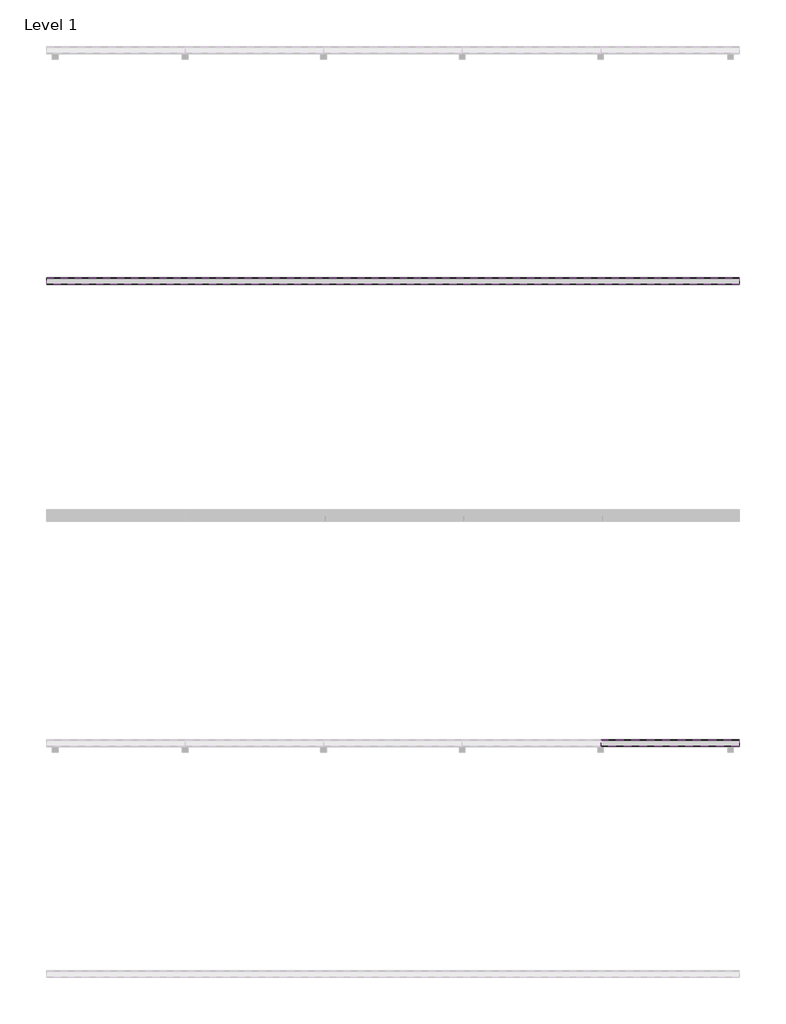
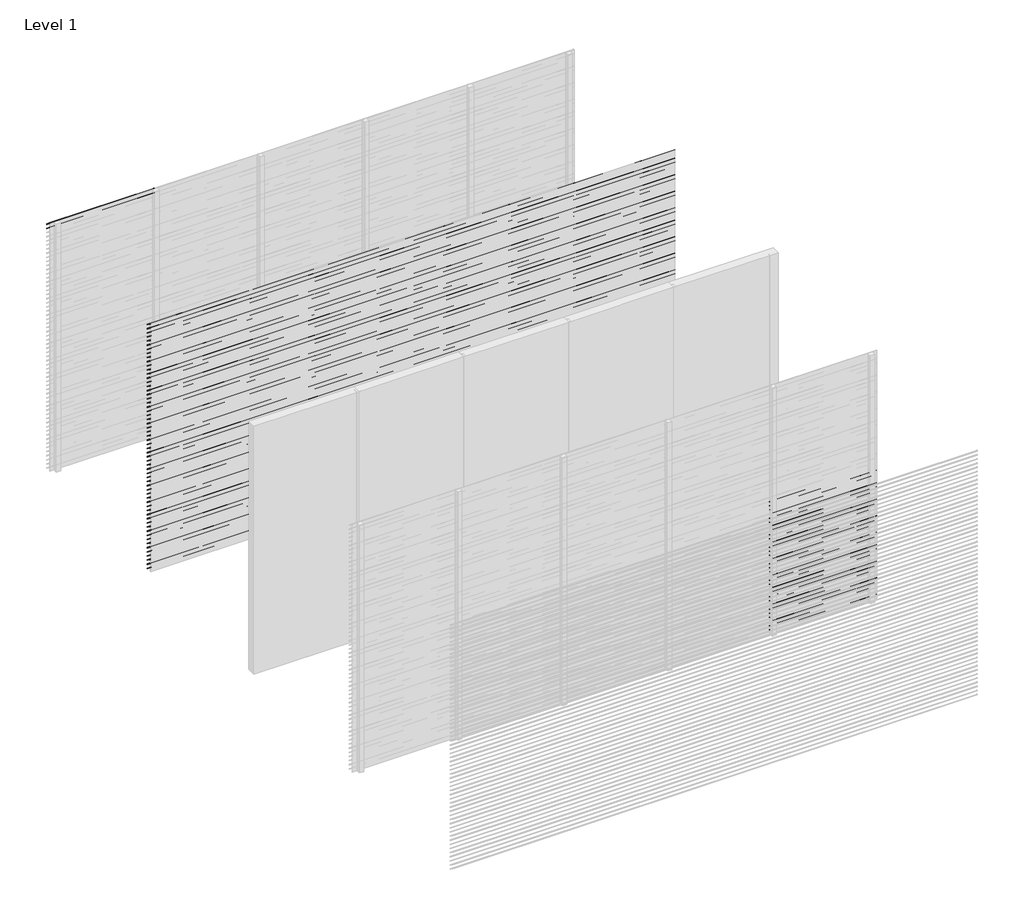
# One storey, part 13 of 16: 94 proxies.
"""IFC4 building model written with IfcOpenShell, lengths in millimetres."""

from ifc_helpers import new_model, si_unit, frame, origin, place, context, project, spatial, polyline, outline, extrude, element, save

model = new_model("IFC4")

# Units and contexts
model_context = context("Model", 3, world=origin())
ifc_project = project(units=[si_unit("LENGTHUNIT", "METRE", prefix="MILLI")], contexts=[model_context])

# Site, building, storey
site = spatial("IfcSite", under=ifc_project)
building = spatial("IfcBuilding", under=site)
storey = spatial("IfcBuildingStorey", under=building, Name="Level 1", Elevation=0.0)

# Proxies
placement = place(None, origin())
element("IfcBuildingElementProxy", 1, Name="Wall Sweeps", at=placement, inside=storey, context=model_context, shape_type="SweptSolid", body=[
    extrude(outline(polyline([(5.0, 3000.0), (5.0, 2998.0), (61.0, 2954.0), (61.0, 2946.0), (3.0, 2991.5714286), (3.0, 3000.0), (5.0, 3000.0)])), frame((0.0, 0.0, 0.0), z_axis=(1.0, 0.0, 0.0), x_axis=(0.0, 1.0, 0.0)), (0.0, 0.0, 1.0), 1200.0),
])
element("IfcBuildingElementProxy", 2, Name="Wall Sweeps", at=placement, inside=storey, context=model_context, shape_type="SweptSolid", body=[
    extrude(outline(polyline([(5.0, 2950.0), (5.0, 2948.0), (61.0, 2904.0), (61.0, 2896.0), (3.0, 2941.5714286), (3.0, 2950.0), (5.0, 2950.0)])), frame((0.0, 0.0, 0.0), z_axis=(1.0, 0.0, 0.0), x_axis=(0.0, 1.0, 0.0)), (0.0, 0.0, 1.0), 1200.0),
])
element("IfcBuildingElementProxy", 3, Name="Wall Sweeps", at=placement, inside=storey, context=model_context, shape_type="SweptSolid", body=[
    extrude(outline(polyline([(-1995.0, 3000.0), (-1995.0, 2998.0), (-1939.0, 2954.0), (-1939.0, 2946.0), (-1997.0, 2991.5714286), (-1997.0, 3000.0), (-1995.0, 3000.0)])), frame((0.0, 0.0, 0.0), z_axis=(1.0, 0.0, 0.0), x_axis=(0.0, 1.0, 0.0)), (0.0, 0.0, 1.0), 6000.0),
])
element("IfcBuildingElementProxy", 4, Name="Wall Sweeps", at=placement, inside=storey, context=model_context, shape_type="SweptSolid", body=[
    extrude(outline(polyline([(-1995.0, 2950.0), (-1995.0, 2948.0), (-1939.0, 2904.0), (-1939.0, 2896.0), (-1997.0, 2941.5714286), (-1997.0, 2950.0), (-1995.0, 2950.0)])), frame((0.0, 0.0, 0.0), z_axis=(1.0, 0.0, 0.0), x_axis=(0.0, 1.0, 0.0)), (0.0, 0.0, 1.0), 6000.0),
])
element("IfcBuildingElementProxy", 5, Name="Wall Sweeps", at=placement, inside=storey, context=model_context, shape_type="SweptSolid", body=[
    extrude(outline(polyline([(-1995.0, 2900.0), (-1995.0, 2898.0), (-1939.0, 2854.0), (-1939.0, 2846.0), (-1997.0, 2891.5714286), (-1997.0, 2900.0), (-1995.0, 2900.0)])), frame((0.0, 0.0, 0.0), z_axis=(1.0, 0.0, 0.0), x_axis=(0.0, 1.0, 0.0)), (0.0, 0.0, 1.0), 6000.0),
])
element("IfcBuildingElementProxy", 6, Name="Wall Sweeps", at=placement, inside=storey, context=model_context, shape_type="SweptSolid", body=[
    extrude(outline(polyline([(-1995.0, 2850.0), (-1995.0, 2848.0), (-1939.0, 2804.0), (-1939.0, 2796.0), (-1997.0, 2841.5714286), (-1997.0, 2850.0), (-1995.0, 2850.0)])), frame((0.0, 0.0, 0.0), z_axis=(1.0, 0.0, 0.0), x_axis=(0.0, 1.0, 0.0)), (0.0, 0.0, 1.0), 6000.0),
])
element("IfcBuildingElementProxy", 7, Name="Wall Sweeps", at=placement, inside=storey, context=model_context, shape_type="SweptSolid", body=[
    extrude(outline(polyline([(-1995.0, 2800.0), (-1995.0, 2798.0), (-1939.0, 2754.0), (-1939.0, 2746.0), (-1997.0, 2791.5714286), (-1997.0, 2800.0), (-1995.0, 2800.0)])), frame((0.0, 0.0, 0.0), z_axis=(1.0, 0.0, 0.0), x_axis=(0.0, 1.0, 0.0)), (0.0, 0.0, 1.0), 6000.0),
])
element("IfcBuildingElementProxy", 8, Name="Wall Sweeps", at=placement, inside=storey, context=model_context, shape_type="SweptSolid", body=[
    extrude(outline(polyline([(-1995.0, 2750.0), (-1995.0, 2748.0), (-1939.0, 2704.0), (-1939.0, 2696.0), (-1997.0, 2741.5714286), (-1997.0, 2750.0), (-1995.0, 2750.0)])), frame((0.0, 0.0, 0.0), z_axis=(1.0, 0.0, 0.0), x_axis=(0.0, 1.0, 0.0)), (0.0, 0.0, 1.0), 6000.0),
])
element("IfcBuildingElementProxy", 9, Name="Wall Sweeps", at=placement, inside=storey, context=model_context, shape_type="SweptSolid", body=[
    extrude(outline(polyline([(-1995.0, 2700.0), (-1995.0, 2698.0), (-1939.0, 2654.0), (-1939.0, 2646.0), (-1997.0, 2691.5714286), (-1997.0, 2700.0), (-1995.0, 2700.0)])), frame((0.0, 0.0, 0.0), z_axis=(1.0, 0.0, 0.0), x_axis=(0.0, 1.0, 0.0)), (0.0, 0.0, 1.0), 6000.0),
])
element("IfcBuildingElementProxy", 10, Name="Wall Sweeps", at=placement, inside=storey, context=model_context, shape_type="SweptSolid", body=[
    extrude(outline(polyline([(-1995.0, 2650.0), (-1995.0, 2648.0), (-1939.0, 2604.0), (-1939.0, 2596.0), (-1997.0, 2641.5714286), (-1997.0, 2650.0), (-1995.0, 2650.0)])), frame((0.0, 0.0, 0.0), z_axis=(1.0, 0.0, 0.0), x_axis=(0.0, 1.0, 0.0)), (0.0, 0.0, 1.0), 6000.0),
])
element("IfcBuildingElementProxy", 11, Name="Wall Sweeps", at=placement, inside=storey, context=model_context, shape_type="SweptSolid", body=[
    extrude(outline(polyline([(-1995.0, 2600.0), (-1995.0, 2598.0), (-1939.0, 2554.0), (-1939.0, 2546.0), (-1997.0, 2591.5714286), (-1997.0, 2600.0), (-1995.0, 2600.0)])), frame((0.0, 0.0, 0.0), z_axis=(1.0, 0.0, 0.0), x_axis=(0.0, 1.0, 0.0)), (0.0, 0.0, 1.0), 6000.0),
])
element("IfcBuildingElementProxy", 12, Name="Wall Sweeps", at=placement, inside=storey, context=model_context, shape_type="SweptSolid", body=[
    extrude(outline(polyline([(-1995.0, 2550.0), (-1995.0, 2548.0), (-1939.0, 2504.0), (-1939.0, 2496.0), (-1997.0, 2541.5714286), (-1997.0, 2550.0), (-1995.0, 2550.0)])), frame((0.0, 0.0, 0.0), z_axis=(1.0, 0.0, 0.0), x_axis=(0.0, 1.0, 0.0)), (0.0, 0.0, 1.0), 6000.0),
])
element("IfcBuildingElementProxy", 13, Name="Wall Sweeps", at=placement, inside=storey, context=model_context, shape_type="SweptSolid", body=[
    extrude(outline(polyline([(-1995.0, 2500.0), (-1995.0, 2498.0), (-1939.0, 2454.0), (-1939.0, 2446.0), (-1997.0, 2491.5714286), (-1997.0, 2500.0), (-1995.0, 2500.0)])), frame((0.0, 0.0, 0.0), z_axis=(1.0, 0.0, 0.0), x_axis=(0.0, 1.0, 0.0)), (0.0, 0.0, 1.0), 6000.0),
])
element("IfcBuildingElementProxy", 14, Name="Wall Sweeps", at=placement, inside=storey, context=model_context, shape_type="SweptSolid", body=[
    extrude(outline(polyline([(-1995.0, 2450.0), (-1995.0, 2448.0), (-1939.0, 2404.0), (-1939.0, 2396.0), (-1997.0, 2441.5714286), (-1997.0, 2450.0), (-1995.0, 2450.0)])), frame((0.0, 0.0, 0.0), z_axis=(1.0, 0.0, 0.0), x_axis=(0.0, 1.0, 0.0)), (0.0, 0.0, 1.0), 6000.0),
])
element("IfcBuildingElementProxy", 15, Name="Wall Sweeps", at=placement, inside=storey, context=model_context, shape_type="SweptSolid", body=[
    extrude(outline(polyline([(-1995.0, 2400.0), (-1995.0, 2398.0), (-1939.0, 2354.0), (-1939.0, 2346.0), (-1997.0, 2391.5714286), (-1997.0, 2400.0), (-1995.0, 2400.0)])), frame((0.0, 0.0, 0.0), z_axis=(1.0, 0.0, 0.0), x_axis=(0.0, 1.0, 0.0)), (0.0, 0.0, 1.0), 6000.0),
])
element("IfcBuildingElementProxy", 16, Name="Wall Sweeps", at=placement, inside=storey, context=model_context, shape_type="SweptSolid", body=[
    extrude(outline(polyline([(-1995.0, 2350.0), (-1995.0, 2348.0), (-1939.0, 2304.0), (-1939.0, 2296.0), (-1997.0, 2341.5714286), (-1997.0, 2350.0), (-1995.0, 2350.0)])), frame((0.0, 0.0, 0.0), z_axis=(1.0, 0.0, 0.0), x_axis=(0.0, 1.0, 0.0)), (0.0, 0.0, 1.0), 6000.0),
])
element("IfcBuildingElementProxy", 17, Name="Wall Sweeps", at=placement, inside=storey, context=model_context, shape_type="SweptSolid", body=[
    extrude(outline(polyline([(-1995.0, 2300.0), (-1995.0, 2298.0), (-1939.0, 2254.0), (-1939.0, 2246.0), (-1997.0, 2291.5714286), (-1997.0, 2300.0), (-1995.0, 2300.0)])), frame((0.0, 0.0, 0.0), z_axis=(1.0, 0.0, 0.0), x_axis=(0.0, 1.0, 0.0)), (0.0, 0.0, 1.0), 6000.0),
])
element("IfcBuildingElementProxy", 18, Name="Wall Sweeps", at=placement, inside=storey, context=model_context, shape_type="SweptSolid", body=[
    extrude(outline(polyline([(-1995.0, 2250.0), (-1995.0, 2248.0), (-1939.0, 2204.0), (-1939.0, 2196.0), (-1997.0, 2241.5714286), (-1997.0, 2250.0), (-1995.0, 2250.0)])), frame((0.0, 0.0, 0.0), z_axis=(1.0, 0.0, 0.0), x_axis=(0.0, 1.0, 0.0)), (0.0, 0.0, 1.0), 6000.0),
])
element("IfcBuildingElementProxy", 19, Name="Wall Sweeps", at=placement, inside=storey, context=model_context, shape_type="SweptSolid", body=[
    extrude(outline(polyline([(-1995.0, 2200.0), (-1995.0, 2198.0), (-1939.0, 2154.0), (-1939.0, 2146.0), (-1997.0, 2191.5714286), (-1997.0, 2200.0), (-1995.0, 2200.0)])), frame((0.0, 0.0, 0.0), z_axis=(1.0, 0.0, 0.0), x_axis=(0.0, 1.0, 0.0)), (0.0, 0.0, 1.0), 6000.0),
])
element("IfcBuildingElementProxy", 20, Name="Wall Sweeps", at=placement, inside=storey, context=model_context, shape_type="SweptSolid", body=[
    extrude(outline(polyline([(-1995.0, 2150.0), (-1995.0, 2148.0), (-1939.0, 2104.0), (-1939.0, 2096.0), (-1997.0, 2141.5714286), (-1997.0, 2150.0), (-1995.0, 2150.0)])), frame((0.0, 0.0, 0.0), z_axis=(1.0, 0.0, 0.0), x_axis=(0.0, 1.0, 0.0)), (0.0, 0.0, 1.0), 6000.0),
])
element("IfcBuildingElementProxy", 21, Name="Wall Sweeps", at=placement, inside=storey, context=model_context, shape_type="SweptSolid", body=[
    extrude(outline(polyline([(-1995.0, 2100.0), (-1995.0, 2098.0), (-1939.0, 2054.0), (-1939.0, 2046.0), (-1997.0, 2091.5714286), (-1997.0, 2100.0), (-1995.0, 2100.0)])), frame((0.0, 0.0, 0.0), z_axis=(1.0, 0.0, 0.0), x_axis=(0.0, 1.0, 0.0)), (0.0, 0.0, 1.0), 6000.0),
])
element("IfcBuildingElementProxy", 22, Name="Wall Sweeps", at=placement, inside=storey, context=model_context, shape_type="SweptSolid", body=[
    extrude(outline(polyline([(-1995.0, 2050.0), (-1995.0, 2048.0), (-1939.0, 2004.0), (-1939.0, 1996.0), (-1997.0, 2041.5714286), (-1997.0, 2050.0), (-1995.0, 2050.0)])), frame((0.0, 0.0, 0.0), z_axis=(1.0, 0.0, 0.0), x_axis=(0.0, 1.0, 0.0)), (0.0, 0.0, 1.0), 6000.0),
])
element("IfcBuildingElementProxy", 23, Name="Wall Sweeps", at=placement, inside=storey, context=model_context, shape_type="SweptSolid", body=[
    extrude(outline(polyline([(-1995.0, 2000.0), (-1995.0, 1998.0), (-1939.0, 1954.0), (-1939.0, 1946.0), (-1997.0, 1991.5714286), (-1997.0, 2000.0), (-1995.0, 2000.0)])), frame((0.0, 0.0, 0.0), z_axis=(1.0, 0.0, 0.0), x_axis=(0.0, 1.0, 0.0)), (0.0, 0.0, 1.0), 6000.0),
])
element("IfcBuildingElementProxy", 24, Name="Wall Sweeps", at=placement, inside=storey, context=model_context, shape_type="SweptSolid", body=[
    extrude(outline(polyline([(-1995.0, 1950.0), (-1995.0, 1948.0), (-1939.0, 1904.0), (-1939.0, 1896.0), (-1997.0, 1941.5714286), (-1997.0, 1950.0), (-1995.0, 1950.0)])), frame((0.0, 0.0, 0.0), z_axis=(1.0, 0.0, 0.0), x_axis=(0.0, 1.0, 0.0)), (0.0, 0.0, 1.0), 6000.0),
])
element("IfcBuildingElementProxy", 25, Name="Wall Sweeps", at=placement, inside=storey, context=model_context, shape_type="SweptSolid", body=[
    extrude(outline(polyline([(-1995.0, 1900.0), (-1995.0, 1898.0), (-1939.0, 1854.0), (-1939.0, 1846.0), (-1997.0, 1891.5714286), (-1997.0, 1900.0), (-1995.0, 1900.0)])), frame((0.0, 0.0, 0.0), z_axis=(1.0, 0.0, 0.0), x_axis=(0.0, 1.0, 0.0)), (0.0, 0.0, 1.0), 6000.0),
])
element("IfcBuildingElementProxy", 26, Name="Wall Sweeps", at=placement, inside=storey, context=model_context, shape_type="SweptSolid", body=[
    extrude(outline(polyline([(-1995.0, 1850.0), (-1995.0, 1848.0), (-1939.0, 1804.0), (-1939.0, 1796.0), (-1997.0, 1841.5714286), (-1997.0, 1850.0), (-1995.0, 1850.0)])), frame((0.0, 0.0, 0.0), z_axis=(1.0, 0.0, 0.0), x_axis=(0.0, 1.0, 0.0)), (0.0, 0.0, 1.0), 6000.0),
])
element("IfcBuildingElementProxy", 27, Name="Wall Sweeps", at=placement, inside=storey, context=model_context, shape_type="SweptSolid", body=[
    extrude(outline(polyline([(-1995.0, 1800.0), (-1995.0, 1798.0), (-1939.0, 1754.0), (-1939.0, 1746.0), (-1997.0, 1791.5714286), (-1997.0, 1800.0), (-1995.0, 1800.0)])), frame((0.0, 0.0, 0.0), z_axis=(1.0, 0.0, 0.0), x_axis=(0.0, 1.0, 0.0)), (0.0, 0.0, 1.0), 6000.0),
])
element("IfcBuildingElementProxy", 28, Name="Wall Sweeps", at=placement, inside=storey, context=model_context, shape_type="SweptSolid", body=[
    extrude(outline(polyline([(-1995.0, 1750.0), (-1995.0, 1748.0), (-1939.0, 1704.0), (-1939.0, 1696.0), (-1997.0, 1741.5714286), (-1997.0, 1750.0), (-1995.0, 1750.0)])), frame((0.0, 0.0, 0.0), z_axis=(1.0, 0.0, 0.0), x_axis=(0.0, 1.0, 0.0)), (0.0, 0.0, 1.0), 6000.0),
])
element("IfcBuildingElementProxy", 29, Name="Wall Sweeps", at=placement, inside=storey, context=model_context, shape_type="SweptSolid", body=[
    extrude(outline(polyline([(-1995.0, 1700.0), (-1995.0, 1698.0), (-1939.0, 1654.0), (-1939.0, 1646.0), (-1997.0, 1691.5714286), (-1997.0, 1700.0), (-1995.0, 1700.0)])), frame((0.0, 0.0, 0.0), z_axis=(1.0, 0.0, 0.0), x_axis=(0.0, 1.0, 0.0)), (0.0, 0.0, 1.0), 6000.0),
])
element("IfcBuildingElementProxy", 30, Name="Wall Sweeps", at=placement, inside=storey, context=model_context, shape_type="SweptSolid", body=[
    extrude(outline(polyline([(-1995.0, 1650.0), (-1995.0, 1648.0), (-1939.0, 1604.0), (-1939.0, 1596.0), (-1997.0, 1641.5714286), (-1997.0, 1650.0), (-1995.0, 1650.0)])), frame((0.0, 0.0, 0.0), z_axis=(1.0, 0.0, 0.0), x_axis=(0.0, 1.0, 0.0)), (0.0, 0.0, 1.0), 6000.0),
])
element("IfcBuildingElementProxy", 31, Name="Wall Sweeps", at=placement, inside=storey, context=model_context, shape_type="SweptSolid", body=[
    extrude(outline(polyline([(-1995.0, 1600.0), (-1995.0, 1598.0), (-1939.0, 1554.0), (-1939.0, 1546.0), (-1997.0, 1591.5714286), (-1997.0, 1600.0), (-1995.0, 1600.0)])), frame((0.0, 0.0, 0.0), z_axis=(1.0, 0.0, 0.0), x_axis=(0.0, 1.0, 0.0)), (0.0, 0.0, 1.0), 6000.0),
])
element("IfcBuildingElementProxy", 32, Name="Wall Sweeps", at=placement, inside=storey, context=model_context, shape_type="SweptSolid", body=[
    extrude(outline(polyline([(-1995.0, 1550.0), (-1995.0, 1548.0), (-1939.0, 1504.0), (-1939.0, 1496.0), (-1997.0, 1541.5714286), (-1997.0, 1550.0), (-1995.0, 1550.0)])), frame((0.0, 0.0, 0.0), z_axis=(1.0, 0.0, 0.0), x_axis=(0.0, 1.0, 0.0)), (0.0, 0.0, 1.0), 6000.0),
])
element("IfcBuildingElementProxy", 33, Name="Wall Sweeps", at=placement, inside=storey, context=model_context, shape_type="SweptSolid", body=[
    extrude(outline(polyline([(-1995.0, 1500.0), (-1995.0, 1498.0), (-1939.0, 1454.0), (-1939.0, 1446.0), (-1997.0, 1491.5714286), (-1997.0, 1500.0), (-1995.0, 1500.0)])), frame((0.0, 0.0, 0.0), z_axis=(1.0, 0.0, 0.0), x_axis=(0.0, 1.0, 0.0)), (0.0, 0.0, 1.0), 6000.0),
])
element("IfcBuildingElementProxy", 34, Name="Wall Sweeps", at=placement, inside=storey, context=model_context, shape_type="SweptSolid", body=[
    extrude(outline(polyline([(-1995.0, 1450.0), (-1995.0, 1448.0), (-1939.0, 1404.0), (-1939.0, 1396.0), (-1997.0, 1441.5714286), (-1997.0, 1450.0), (-1995.0, 1450.0)])), frame((0.0, 0.0, 0.0), z_axis=(1.0, 0.0, 0.0), x_axis=(0.0, 1.0, 0.0)), (0.0, 0.0, 1.0), 6000.0),
])
element("IfcBuildingElementProxy", 35, Name="Wall Sweeps", at=placement, inside=storey, context=model_context, shape_type="SweptSolid", body=[
    extrude(outline(polyline([(-1995.0, 1400.0), (-1995.0, 1398.0), (-1939.0, 1354.0), (-1939.0, 1346.0), (-1997.0, 1391.5714286), (-1997.0, 1400.0), (-1995.0, 1400.0)])), frame((0.0, 0.0, 0.0), z_axis=(1.0, 0.0, 0.0), x_axis=(0.0, 1.0, 0.0)), (0.0, 0.0, 1.0), 6000.0),
])
element("IfcBuildingElementProxy", 36, Name="Wall Sweeps", at=placement, inside=storey, context=model_context, shape_type="SweptSolid", body=[
    extrude(outline(polyline([(-1995.0, 1350.0), (-1995.0, 1348.0), (-1939.0, 1304.0), (-1939.0, 1296.0), (-1997.0, 1341.5714286), (-1997.0, 1350.0), (-1995.0, 1350.0)])), frame((0.0, 0.0, 0.0), z_axis=(1.0, 0.0, 0.0), x_axis=(0.0, 1.0, 0.0)), (0.0, 0.0, 1.0), 6000.0),
])
element("IfcBuildingElementProxy", 37, Name="Wall Sweeps", at=placement, inside=storey, context=model_context, shape_type="SweptSolid", body=[
    extrude(outline(polyline([(-1995.0, 1300.0), (-1995.0, 1298.0), (-1939.0, 1254.0), (-1939.0, 1246.0), (-1997.0, 1291.5714286), (-1997.0, 1300.0), (-1995.0, 1300.0)])), frame((0.0, 0.0, 0.0), z_axis=(1.0, 0.0, 0.0), x_axis=(0.0, 1.0, 0.0)), (0.0, 0.0, 1.0), 6000.0),
])
element("IfcBuildingElementProxy", 38, Name="Wall Sweeps", at=placement, inside=storey, context=model_context, shape_type="SweptSolid", body=[
    extrude(outline(polyline([(-1995.0, 1250.0), (-1995.0, 1248.0), (-1939.0, 1204.0), (-1939.0, 1196.0), (-1997.0, 1241.5714286), (-1997.0, 1250.0), (-1995.0, 1250.0)])), frame((0.0, 0.0, 0.0), z_axis=(1.0, 0.0, 0.0), x_axis=(0.0, 1.0, 0.0)), (0.0, 0.0, 1.0), 6000.0),
])
element("IfcBuildingElementProxy", 39, Name="Wall Sweeps", at=placement, inside=storey, context=model_context, shape_type="SweptSolid", body=[
    extrude(outline(polyline([(-1995.0, 1200.0), (-1995.0, 1198.0), (-1939.0, 1154.0), (-1939.0, 1146.0), (-1997.0, 1191.5714286), (-1997.0, 1200.0), (-1995.0, 1200.0)])), frame((0.0, 0.0, 0.0), z_axis=(1.0, 0.0, 0.0), x_axis=(0.0, 1.0, 0.0)), (0.0, 0.0, 1.0), 6000.0),
])
element("IfcBuildingElementProxy", 40, Name="Wall Sweeps", at=placement, inside=storey, context=model_context, shape_type="SweptSolid", body=[
    extrude(outline(polyline([(-1995.0, 1150.0), (-1995.0, 1148.0), (-1939.0, 1104.0), (-1939.0, 1096.0), (-1997.0, 1141.5714286), (-1997.0, 1150.0), (-1995.0, 1150.0)])), frame((0.0, 0.0, 0.0), z_axis=(1.0, 0.0, 0.0), x_axis=(0.0, 1.0, 0.0)), (0.0, 0.0, 1.0), 6000.0),
])
element("IfcBuildingElementProxy", 41, Name="Wall Sweeps", at=placement, inside=storey, context=model_context, shape_type="SweptSolid", body=[
    extrude(outline(polyline([(-1995.0, 1100.0), (-1995.0, 1098.0), (-1939.0, 1054.0), (-1939.0, 1046.0), (-1997.0, 1091.5714286), (-1997.0, 1100.0), (-1995.0, 1100.0)])), frame((0.0, 0.0, 0.0), z_axis=(1.0, 0.0, 0.0), x_axis=(0.0, 1.0, 0.0)), (0.0, 0.0, 1.0), 6000.0),
])
element("IfcBuildingElementProxy", 42, Name="Wall Sweeps", at=placement, inside=storey, context=model_context, shape_type="SweptSolid", body=[
    extrude(outline(polyline([(-1995.0, 1050.0), (-1995.0, 1048.0), (-1939.0, 1004.0), (-1939.0, 996.0), (-1997.0, 1041.5714286), (-1997.0, 1050.0), (-1995.0, 1050.0)])), frame((0.0, 0.0, 0.0), z_axis=(1.0, 0.0, 0.0), x_axis=(0.0, 1.0, 0.0)), (0.0, 0.0, 1.0), 6000.0),
])
element("IfcBuildingElementProxy", 43, Name="Wall Sweeps", at=placement, inside=storey, context=model_context, shape_type="SweptSolid", body=[
    extrude(outline(polyline([(-1995.0, 1000.0), (-1995.0, 998.0), (-1939.0, 954.0), (-1939.0, 946.0), (-1997.0, 991.5714286), (-1997.0, 1000.0), (-1995.0, 1000.0)])), frame((0.0, 0.0, 0.0), z_axis=(1.0, 0.0, 0.0), x_axis=(0.0, 1.0, 0.0)), (0.0, 0.0, 1.0), 6000.0),
])
element("IfcBuildingElementProxy", 44, Name="Wall Sweeps", at=placement, inside=storey, context=model_context, shape_type="SweptSolid", body=[
    extrude(outline(polyline([(-1995.0, 950.0), (-1995.0, 948.0), (-1939.0, 904.0), (-1939.0, 896.0), (-1997.0, 941.5714286), (-1997.0, 950.0), (-1995.0, 950.0)])), frame((0.0, 0.0, 0.0), z_axis=(1.0, 0.0, 0.0), x_axis=(0.0, 1.0, 0.0)), (0.0, 0.0, 1.0), 6000.0),
])
element("IfcBuildingElementProxy", 45, Name="Wall Sweeps", at=placement, inside=storey, context=model_context, shape_type="SweptSolid", body=[
    extrude(outline(polyline([(-1995.0, 900.0), (-1995.0, 898.0), (-1939.0, 854.0), (-1939.0, 846.0), (-1997.0, 891.5714286), (-1997.0, 900.0), (-1995.0, 900.0)])), frame((0.0, 0.0, 0.0), z_axis=(1.0, 0.0, 0.0), x_axis=(0.0, 1.0, 0.0)), (0.0, 0.0, 1.0), 6000.0),
])
element("IfcBuildingElementProxy", 46, Name="Wall Sweeps", at=placement, inside=storey, context=model_context, shape_type="SweptSolid", body=[
    extrude(outline(polyline([(-1995.0, 850.0), (-1995.0, 848.0), (-1939.0, 804.0), (-1939.0, 796.0), (-1997.0, 841.5714286), (-1997.0, 850.0), (-1995.0, 850.0)])), frame((0.0, 0.0, 0.0), z_axis=(1.0, 0.0, 0.0), x_axis=(0.0, 1.0, 0.0)), (0.0, 0.0, 1.0), 6000.0),
])
element("IfcBuildingElementProxy", 47, Name="Wall Sweeps", at=placement, inside=storey, context=model_context, shape_type="SweptSolid", body=[
    extrude(outline(polyline([(-1995.0, 800.0), (-1995.0, 798.0), (-1939.0, 754.0), (-1939.0, 746.0), (-1997.0, 791.5714286), (-1997.0, 800.0), (-1995.0, 800.0)])), frame((0.0, 0.0, 0.0), z_axis=(1.0, 0.0, 0.0), x_axis=(0.0, 1.0, 0.0)), (0.0, 0.0, 1.0), 6000.0),
])
element("IfcBuildingElementProxy", 48, Name="Wall Sweeps", at=placement, inside=storey, context=model_context, shape_type="SweptSolid", body=[
    extrude(outline(polyline([(-1995.0, 750.0), (-1995.0, 748.0), (-1939.0, 704.0), (-1939.0, 696.0), (-1997.0, 741.5714286), (-1997.0, 750.0), (-1995.0, 750.0)])), frame((0.0, 0.0, 0.0), z_axis=(1.0, 0.0, 0.0), x_axis=(0.0, 1.0, 0.0)), (0.0, 0.0, 1.0), 6000.0),
])
element("IfcBuildingElementProxy", 49, Name="Wall Sweeps", at=placement, inside=storey, context=model_context, shape_type="SweptSolid", body=[
    extrude(outline(polyline([(-1995.0, 700.0), (-1995.0, 698.0), (-1939.0, 654.0), (-1939.0, 646.0), (-1997.0, 691.5714286), (-1997.0, 700.0), (-1995.0, 700.0)])), frame((0.0, 0.0, 0.0), z_axis=(1.0, 0.0, 0.0), x_axis=(0.0, 1.0, 0.0)), (0.0, 0.0, 1.0), 6000.0),
])
element("IfcBuildingElementProxy", 50, Name="Wall Sweeps", at=placement, inside=storey, context=model_context, shape_type="SweptSolid", body=[
    extrude(outline(polyline([(-1995.0, 650.0), (-1995.0, 648.0), (-1939.0, 604.0), (-1939.0, 596.0), (-1997.0, 641.5714286), (-1997.0, 650.0), (-1995.0, 650.0)])), frame((0.0, 0.0, 0.0), z_axis=(1.0, 0.0, 0.0), x_axis=(0.0, 1.0, 0.0)), (0.0, 0.0, 1.0), 6000.0),
])
element("IfcBuildingElementProxy", 51, Name="Wall Sweeps", at=placement, inside=storey, context=model_context, shape_type="SweptSolid", body=[
    extrude(outline(polyline([(-1995.0, 600.0), (-1995.0, 598.0), (-1939.0, 554.0), (-1939.0, 546.0), (-1997.0, 591.5714286), (-1997.0, 600.0), (-1995.0, 600.0)])), frame((0.0, 0.0, 0.0), z_axis=(1.0, 0.0, 0.0), x_axis=(0.0, 1.0, 0.0)), (0.0, 0.0, 1.0), 6000.0),
])
element("IfcBuildingElementProxy", 52, Name="Wall Sweeps", at=placement, inside=storey, context=model_context, shape_type="SweptSolid", body=[
    extrude(outline(polyline([(-1995.0, 550.0), (-1995.0, 548.0), (-1939.0, 504.0), (-1939.0, 496.0), (-1997.0, 541.5714286), (-1997.0, 550.0), (-1995.0, 550.0)])), frame((0.0, 0.0, 0.0), z_axis=(1.0, 0.0, 0.0), x_axis=(0.0, 1.0, 0.0)), (0.0, 0.0, 1.0), 6000.0),
])
element("IfcBuildingElementProxy", 53, Name="Wall Sweeps", at=placement, inside=storey, context=model_context, shape_type="SweptSolid", body=[
    extrude(outline(polyline([(-1995.0, 500.0), (-1995.0, 498.0), (-1939.0, 454.0), (-1939.0, 446.0), (-1997.0, 491.5714286), (-1997.0, 500.0), (-1995.0, 500.0)])), frame((0.0, 0.0, 0.0), z_axis=(1.0, 0.0, 0.0), x_axis=(0.0, 1.0, 0.0)), (0.0, 0.0, 1.0), 6000.0),
])
element("IfcBuildingElementProxy", 54, Name="Wall Sweeps", at=placement, inside=storey, context=model_context, shape_type="SweptSolid", body=[
    extrude(outline(polyline([(-1995.0, 450.0), (-1995.0, 448.0), (-1939.0, 404.0), (-1939.0, 396.0), (-1997.0, 441.5714286), (-1997.0, 450.0), (-1995.0, 450.0)])), frame((0.0, 0.0, 0.0), z_axis=(1.0, 0.0, 0.0), x_axis=(0.0, 1.0, 0.0)), (0.0, 0.0, 1.0), 6000.0),
])
element("IfcBuildingElementProxy", 55, Name="Wall Sweeps", at=placement, inside=storey, context=model_context, shape_type="SweptSolid", body=[
    extrude(outline(polyline([(-1995.0, 400.0), (-1995.0, 398.0), (-1939.0, 354.0), (-1939.0, 346.0), (-1997.0, 391.5714286), (-1997.0, 400.0), (-1995.0, 400.0)])), frame((0.0, 0.0, 0.0), z_axis=(1.0, 0.0, 0.0), x_axis=(0.0, 1.0, 0.0)), (0.0, 0.0, 1.0), 6000.0),
])
element("IfcBuildingElementProxy", 56, Name="Wall Sweeps", at=placement, inside=storey, context=model_context, shape_type="SweptSolid", body=[
    extrude(outline(polyline([(-1995.0, 350.0), (-1995.0, 348.0), (-1939.0, 304.0), (-1939.0, 296.0), (-1997.0, 341.5714286), (-1997.0, 350.0), (-1995.0, 350.0)])), frame((0.0, 0.0, 0.0), z_axis=(1.0, 0.0, 0.0), x_axis=(0.0, 1.0, 0.0)), (0.0, 0.0, 1.0), 6000.0),
])
element("IfcBuildingElementProxy", 57, Name="Wall Sweeps", at=placement, inside=storey, context=model_context, shape_type="SweptSolid", body=[
    extrude(outline(polyline([(-1995.0, 300.0), (-1995.0, 298.0), (-1939.0, 254.0), (-1939.0, 246.0), (-1997.0, 291.5714286), (-1997.0, 300.0), (-1995.0, 300.0)])), frame((0.0, 0.0, 0.0), z_axis=(1.0, 0.0, 0.0), x_axis=(0.0, 1.0, 0.0)), (0.0, 0.0, 1.0), 6000.0),
])
element("IfcBuildingElementProxy", 58, Name="Wall Sweeps", at=placement, inside=storey, context=model_context, shape_type="SweptSolid", body=[
    extrude(outline(polyline([(-1995.0, 250.0), (-1995.0, 248.0), (-1939.0, 204.0), (-1939.0, 196.0), (-1997.0, 241.5714286), (-1997.0, 250.0), (-1995.0, 250.0)])), frame((0.0, 0.0, 0.0), z_axis=(1.0, 0.0, 0.0), x_axis=(0.0, 1.0, 0.0)), (0.0, 0.0, 1.0), 6000.0),
])
element("IfcBuildingElementProxy", 59, Name="Wall Sweeps", at=placement, inside=storey, context=model_context, shape_type="SweptSolid", body=[
    extrude(outline(polyline([(-1995.0, 200.0), (-1995.0, 198.0), (-1939.0, 154.0), (-1939.0, 146.0), (-1997.0, 191.5714286), (-1997.0, 200.0), (-1995.0, 200.0)])), frame((0.0, 0.0, 0.0), z_axis=(1.0, 0.0, 0.0), x_axis=(0.0, 1.0, 0.0)), (0.0, 0.0, 1.0), 6000.0),
])
element("IfcBuildingElementProxy", 60, Name="Wall Sweeps", at=placement, inside=storey, context=model_context, shape_type="SweptSolid", body=[
    extrude(outline(polyline([(-1995.0, 150.0), (-1995.0, 148.0), (-1939.0, 104.0), (-1939.0, 96.0), (-1997.0, 141.5714286), (-1997.0, 150.0), (-1995.0, 150.0)])), frame((0.0, 0.0, 0.0), z_axis=(1.0, 0.0, 0.0), x_axis=(0.0, 1.0, 0.0)), (0.0, 0.0, 1.0), 6000.0),
])
element("IfcBuildingElementProxy", 61, Name="Wall Sweeps", at=placement, inside=storey, context=model_context, shape_type="SweptSolid", body=[
    extrude(outline(polyline([(-1995.0, 100.0), (-1995.0, 98.0), (-1939.0, 54.0), (-1939.0, 46.0), (-1997.0, 91.5714286), (-1997.0, 100.0), (-1995.0, 100.0)])), frame((0.0, 0.0, 0.0), z_axis=(1.0, 0.0, 0.0), x_axis=(0.0, 1.0, 0.0)), (0.0, 0.0, 1.0), 6000.0),
])
element("IfcBuildingElementProxy", 62, Name="Wall Sweeps", at=placement, inside=storey, context=model_context, shape_type="SweptSolid", body=[
    extrude(outline(polyline([(-1995.0, 50.0), (-1995.0, 48.0), (-1939.0, 4.0), (-1939.0, -4.0), (-1997.0, 41.5714286), (-1997.0, 50.0), (-1995.0, 50.0)])), frame((0.0, 0.0, 0.0), z_axis=(1.0, 0.0, 0.0), x_axis=(0.0, 1.0, 0.0)), (0.0, 0.0, 1.0), 6000.0),
])
element("IfcBuildingElementProxy", 63, Name="Wall Sweeps", at=placement, inside=storey, context=model_context, shape_type="SweptSolid", body=[
    extrude(outline(polyline([(-5995.0, 1600.0), (-5995.0, 1598.0), (-5939.0, 1554.0), (-5939.0, 1546.0), (-5997.0, 1591.5714286), (-5997.0, 1600.0), (-5995.0, 1600.0)])), frame((4800.0, 0.0, 0.0), z_axis=(1.0, 0.0, 0.0), x_axis=(0.0, 1.0, 0.0)), (0.0, 0.0, 1.0), 1200.0),
])
element("IfcBuildingElementProxy", 64, Name="Wall Sweeps", at=placement, inside=storey, context=model_context, shape_type="SweptSolid", body=[
    extrude(outline(polyline([(-5995.0, 1550.0), (-5995.0, 1548.0), (-5939.0, 1504.0), (-5939.0, 1496.0), (-5997.0, 1541.5714286), (-5997.0, 1550.0), (-5995.0, 1550.0)])), frame((4800.0, 0.0, 0.0), z_axis=(1.0, 0.0, 0.0), x_axis=(0.0, 1.0, 0.0)), (0.0, 0.0, 1.0), 1200.0),
])
element("IfcBuildingElementProxy", 65, Name="Wall Sweeps", at=placement, inside=storey, context=model_context, shape_type="SweptSolid", body=[
    extrude(outline(polyline([(-5995.0, 1500.0), (-5995.0, 1498.0), (-5939.0, 1454.0), (-5939.0, 1446.0), (-5997.0, 1491.5714286), (-5997.0, 1500.0), (-5995.0, 1500.0)])), frame((4800.0, 0.0, 0.0), z_axis=(1.0, 0.0, 0.0), x_axis=(0.0, 1.0, 0.0)), (0.0, 0.0, 1.0), 1200.0),
])
element("IfcBuildingElementProxy", 66, Name="Wall Sweeps", at=placement, inside=storey, context=model_context, shape_type="SweptSolid", body=[
    extrude(outline(polyline([(-5995.0, 1450.0), (-5995.0, 1448.0), (-5939.0, 1404.0), (-5939.0, 1396.0), (-5997.0, 1441.5714286), (-5997.0, 1450.0), (-5995.0, 1450.0)])), frame((4800.0, 0.0, 0.0), z_axis=(1.0, 0.0, 0.0), x_axis=(0.0, 1.0, 0.0)), (0.0, 0.0, 1.0), 1200.0),
])
element("IfcBuildingElementProxy", 67, Name="Wall Sweeps", at=placement, inside=storey, context=model_context, shape_type="SweptSolid", body=[
    extrude(outline(polyline([(-5995.0, 1400.0), (-5995.0, 1398.0), (-5939.0, 1354.0), (-5939.0, 1346.0), (-5997.0, 1391.5714286), (-5997.0, 1400.0), (-5995.0, 1400.0)])), frame((4800.0, 0.0, 0.0), z_axis=(1.0, 0.0, 0.0), x_axis=(0.0, 1.0, 0.0)), (0.0, 0.0, 1.0), 1200.0),
])
element("IfcBuildingElementProxy", 68, Name="Wall Sweeps", at=placement, inside=storey, context=model_context, shape_type="SweptSolid", body=[
    extrude(outline(polyline([(-5995.0, 1350.0), (-5995.0, 1348.0), (-5939.0, 1304.0), (-5939.0, 1296.0), (-5997.0, 1341.5714286), (-5997.0, 1350.0), (-5995.0, 1350.0)])), frame((4800.0, 0.0, 0.0), z_axis=(1.0, 0.0, 0.0), x_axis=(0.0, 1.0, 0.0)), (0.0, 0.0, 1.0), 1200.0),
])
element("IfcBuildingElementProxy", 69, Name="Wall Sweeps", at=placement, inside=storey, context=model_context, shape_type="SweptSolid", body=[
    extrude(outline(polyline([(-5995.0, 1300.0), (-5995.0, 1298.0), (-5939.0, 1254.0), (-5939.0, 1246.0), (-5997.0, 1291.5714286), (-5997.0, 1300.0), (-5995.0, 1300.0)])), frame((4800.0, 0.0, 0.0), z_axis=(1.0, 0.0, 0.0), x_axis=(0.0, 1.0, 0.0)), (0.0, 0.0, 1.0), 1200.0),
])
element("IfcBuildingElementProxy", 70, Name="Wall Sweeps", at=placement, inside=storey, context=model_context, shape_type="SweptSolid", body=[
    extrude(outline(polyline([(-5995.0, 1250.0), (-5995.0, 1248.0), (-5939.0, 1204.0), (-5939.0, 1196.0), (-5997.0, 1241.5714286), (-5997.0, 1250.0), (-5995.0, 1250.0)])), frame((4800.0, 0.0, 0.0), z_axis=(1.0, 0.0, 0.0), x_axis=(0.0, 1.0, 0.0)), (0.0, 0.0, 1.0), 1200.0),
])
element("IfcBuildingElementProxy", 71, Name="Wall Sweeps", at=placement, inside=storey, context=model_context, shape_type="SweptSolid", body=[
    extrude(outline(polyline([(-5995.0, 1200.0), (-5995.0, 1198.0), (-5939.0, 1154.0), (-5939.0, 1146.0), (-5997.0, 1191.5714286), (-5997.0, 1200.0), (-5995.0, 1200.0)])), frame((4800.0, 0.0, 0.0), z_axis=(1.0, 0.0, 0.0), x_axis=(0.0, 1.0, 0.0)), (0.0, 0.0, 1.0), 1200.0),
])
element("IfcBuildingElementProxy", 72, Name="Wall Sweeps", at=placement, inside=storey, context=model_context, shape_type="SweptSolid", body=[
    extrude(outline(polyline([(-5995.0, 1150.0), (-5995.0, 1148.0), (-5939.0, 1104.0), (-5939.0, 1096.0), (-5997.0, 1141.5714286), (-5997.0, 1150.0), (-5995.0, 1150.0)])), frame((4800.0, 0.0, 0.0), z_axis=(1.0, 0.0, 0.0), x_axis=(0.0, 1.0, 0.0)), (0.0, 0.0, 1.0), 1200.0),
])
element("IfcBuildingElementProxy", 73, Name="Wall Sweeps", at=placement, inside=storey, context=model_context, shape_type="SweptSolid", body=[
    extrude(outline(polyline([(-5995.0, 1100.0), (-5995.0, 1098.0), (-5939.0, 1054.0), (-5939.0, 1046.0), (-5997.0, 1091.5714286), (-5997.0, 1100.0), (-5995.0, 1100.0)])), frame((4800.0, 0.0, 0.0), z_axis=(1.0, 0.0, 0.0), x_axis=(0.0, 1.0, 0.0)), (0.0, 0.0, 1.0), 1200.0),
])
element("IfcBuildingElementProxy", 74, Name="Wall Sweeps", at=placement, inside=storey, context=model_context, shape_type="SweptSolid", body=[
    extrude(outline(polyline([(-5995.0, 1050.0), (-5995.0, 1048.0), (-5939.0, 1004.0), (-5939.0, 996.0), (-5997.0, 1041.5714286), (-5997.0, 1050.0), (-5995.0, 1050.0)])), frame((4800.0, 0.0, 0.0), z_axis=(1.0, 0.0, 0.0), x_axis=(0.0, 1.0, 0.0)), (0.0, 0.0, 1.0), 1200.0),
])
element("IfcBuildingElementProxy", 75, Name="Wall Sweeps", at=placement, inside=storey, context=model_context, shape_type="SweptSolid", body=[
    extrude(outline(polyline([(-5995.0, 1000.0), (-5995.0, 998.0), (-5939.0, 954.0), (-5939.0, 946.0), (-5997.0, 991.5714286), (-5997.0, 1000.0), (-5995.0, 1000.0)])), frame((4800.0, 0.0, 0.0), z_axis=(1.0, 0.0, 0.0), x_axis=(0.0, 1.0, 0.0)), (0.0, 0.0, 1.0), 1200.0),
])
element("IfcBuildingElementProxy", 76, Name="Wall Sweeps", at=placement, inside=storey, context=model_context, shape_type="SweptSolid", body=[
    extrude(outline(polyline([(-5995.0, 950.0), (-5995.0, 948.0), (-5939.0, 904.0), (-5939.0, 896.0), (-5997.0, 941.5714286), (-5997.0, 950.0), (-5995.0, 950.0)])), frame((4800.0, 0.0, 0.0), z_axis=(1.0, 0.0, 0.0), x_axis=(0.0, 1.0, 0.0)), (0.0, 0.0, 1.0), 1200.0),
])
element("IfcBuildingElementProxy", 77, Name="Wall Sweeps", at=placement, inside=storey, context=model_context, shape_type="SweptSolid", body=[
    extrude(outline(polyline([(-5995.0, 900.0), (-5995.0, 898.0), (-5939.0, 854.0), (-5939.0, 846.0), (-5997.0, 891.5714286), (-5997.0, 900.0), (-5995.0, 900.0)])), frame((4800.0, 0.0, 0.0), z_axis=(1.0, 0.0, 0.0), x_axis=(0.0, 1.0, 0.0)), (0.0, 0.0, 1.0), 1200.0),
])
element("IfcBuildingElementProxy", 78, Name="Wall Sweeps", at=placement, inside=storey, context=model_context, shape_type="SweptSolid", body=[
    extrude(outline(polyline([(-5995.0, 850.0), (-5995.0, 848.0), (-5939.0, 804.0), (-5939.0, 796.0), (-5997.0, 841.5714286), (-5997.0, 850.0), (-5995.0, 850.0)])), frame((4800.0, 0.0, 0.0), z_axis=(1.0, 0.0, 0.0), x_axis=(0.0, 1.0, 0.0)), (0.0, 0.0, 1.0), 1200.0),
])
element("IfcBuildingElementProxy", 79, Name="Wall Sweeps", at=placement, inside=storey, context=model_context, shape_type="SweptSolid", body=[
    extrude(outline(polyline([(-5995.0, 800.0), (-5995.0, 798.0), (-5939.0, 754.0), (-5939.0, 746.0), (-5997.0, 791.5714286), (-5997.0, 800.0), (-5995.0, 800.0)])), frame((4800.0, 0.0, 0.0), z_axis=(1.0, 0.0, 0.0), x_axis=(0.0, 1.0, 0.0)), (0.0, 0.0, 1.0), 1200.0),
])
element("IfcBuildingElementProxy", 80, Name="Wall Sweeps", at=placement, inside=storey, context=model_context, shape_type="SweptSolid", body=[
    extrude(outline(polyline([(-5995.0, 750.0), (-5995.0, 748.0), (-5939.0, 704.0), (-5939.0, 696.0), (-5997.0, 741.5714286), (-5997.0, 750.0), (-5995.0, 750.0)])), frame((4800.0, 0.0, 0.0), z_axis=(1.0, 0.0, 0.0), x_axis=(0.0, 1.0, 0.0)), (0.0, 0.0, 1.0), 1200.0),
])
element("IfcBuildingElementProxy", 81, Name="Wall Sweeps", at=placement, inside=storey, context=model_context, shape_type="SweptSolid", body=[
    extrude(outline(polyline([(-5995.0, 700.0), (-5995.0, 698.0), (-5939.0, 654.0), (-5939.0, 646.0), (-5997.0, 691.5714286), (-5997.0, 700.0), (-5995.0, 700.0)])), frame((4800.0, 0.0, 0.0), z_axis=(1.0, 0.0, 0.0), x_axis=(0.0, 1.0, 0.0)), (0.0, 0.0, 1.0), 1200.0),
])
element("IfcBuildingElementProxy", 82, Name="Wall Sweeps", at=placement, inside=storey, context=model_context, shape_type="SweptSolid", body=[
    extrude(outline(polyline([(-5995.0, 650.0), (-5995.0, 648.0), (-5939.0, 604.0), (-5939.0, 596.0), (-5997.0, 641.5714286), (-5997.0, 650.0), (-5995.0, 650.0)])), frame((4800.0, 0.0, 0.0), z_axis=(1.0, 0.0, 0.0), x_axis=(0.0, 1.0, 0.0)), (0.0, 0.0, 1.0), 1200.0),
])
element("IfcBuildingElementProxy", 83, Name="Wall Sweeps", at=placement, inside=storey, context=model_context, shape_type="SweptSolid", body=[
    extrude(outline(polyline([(-5995.0, 600.0), (-5995.0, 598.0), (-5939.0, 554.0), (-5939.0, 546.0), (-5997.0, 591.5714286), (-5997.0, 600.0), (-5995.0, 600.0)])), frame((4800.0, 0.0, 0.0), z_axis=(1.0, 0.0, 0.0), x_axis=(0.0, 1.0, 0.0)), (0.0, 0.0, 1.0), 1200.0),
])
element("IfcBuildingElementProxy", 84, Name="Wall Sweeps", at=placement, inside=storey, context=model_context, shape_type="SweptSolid", body=[
    extrude(outline(polyline([(-5995.0, 550.0), (-5995.0, 548.0), (-5939.0, 504.0), (-5939.0, 496.0), (-5997.0, 541.5714286), (-5997.0, 550.0), (-5995.0, 550.0)])), frame((4800.0, 0.0, 0.0), z_axis=(1.0, 0.0, 0.0), x_axis=(0.0, 1.0, 0.0)), (0.0, 0.0, 1.0), 1200.0),
])
element("IfcBuildingElementProxy", 85, Name="Wall Sweeps", at=placement, inside=storey, context=model_context, shape_type="SweptSolid", body=[
    extrude(outline(polyline([(-5995.0, 500.0), (-5995.0, 498.0), (-5939.0, 454.0), (-5939.0, 446.0), (-5997.0, 491.5714286), (-5997.0, 500.0), (-5995.0, 500.0)])), frame((4800.0, 0.0, 0.0), z_axis=(1.0, 0.0, 0.0), x_axis=(0.0, 1.0, 0.0)), (0.0, 0.0, 1.0), 1200.0),
])
element("IfcBuildingElementProxy", 86, Name="Wall Sweeps", at=placement, inside=storey, context=model_context, shape_type="SweptSolid", body=[
    extrude(outline(polyline([(-5995.0, 450.0), (-5995.0, 448.0), (-5939.0, 404.0), (-5939.0, 396.0), (-5997.0, 441.5714286), (-5997.0, 450.0), (-5995.0, 450.0)])), frame((4800.0, 0.0, 0.0), z_axis=(1.0, 0.0, 0.0), x_axis=(0.0, 1.0, 0.0)), (0.0, 0.0, 1.0), 1200.0),
])
element("IfcBuildingElementProxy", 87, Name="Wall Sweeps", at=placement, inside=storey, context=model_context, shape_type="SweptSolid", body=[
    extrude(outline(polyline([(-5995.0, 400.0), (-5995.0, 398.0), (-5939.0, 354.0), (-5939.0, 346.0), (-5997.0, 391.5714286), (-5997.0, 400.0), (-5995.0, 400.0)])), frame((4800.0, 0.0, 0.0), z_axis=(1.0, 0.0, 0.0), x_axis=(0.0, 1.0, 0.0)), (0.0, 0.0, 1.0), 1200.0),
])
element("IfcBuildingElementProxy", 88, Name="Wall Sweeps", at=placement, inside=storey, context=model_context, shape_type="SweptSolid", body=[
    extrude(outline(polyline([(-5995.0, 350.0), (-5995.0, 348.0), (-5939.0, 304.0), (-5939.0, 296.0), (-5997.0, 341.5714286), (-5997.0, 350.0), (-5995.0, 350.0)])), frame((4800.0, 0.0, 0.0), z_axis=(1.0, 0.0, 0.0), x_axis=(0.0, 1.0, 0.0)), (0.0, 0.0, 1.0), 1200.0),
])
element("IfcBuildingElementProxy", 89, Name="Wall Sweeps", at=placement, inside=storey, context=model_context, shape_type="SweptSolid", body=[
    extrude(outline(polyline([(-5995.0, 300.0), (-5995.0, 298.0), (-5939.0, 254.0), (-5939.0, 246.0), (-5997.0, 291.5714286), (-5997.0, 300.0), (-5995.0, 300.0)])), frame((4800.0, 0.0, 0.0), z_axis=(1.0, 0.0, 0.0), x_axis=(0.0, 1.0, 0.0)), (0.0, 0.0, 1.0), 1200.0),
])
element("IfcBuildingElementProxy", 90, Name="Wall Sweeps", at=placement, inside=storey, context=model_context, shape_type="SweptSolid", body=[
    extrude(outline(polyline([(-5995.0, 250.0), (-5995.0, 248.0), (-5939.0, 204.0), (-5939.0, 196.0), (-5997.0, 241.5714286), (-5997.0, 250.0), (-5995.0, 250.0)])), frame((4800.0, 0.0, 0.0), z_axis=(1.0, 0.0, 0.0), x_axis=(0.0, 1.0, 0.0)), (0.0, 0.0, 1.0), 1200.0),
])
element("IfcBuildingElementProxy", 91, Name="Wall Sweeps", at=placement, inside=storey, context=model_context, shape_type="SweptSolid", body=[
    extrude(outline(polyline([(-5995.0, 200.0), (-5995.0, 198.0), (-5939.0, 154.0), (-5939.0, 146.0), (-5997.0, 191.5714286), (-5997.0, 200.0), (-5995.0, 200.0)])), frame((4800.0, 0.0, 0.0), z_axis=(1.0, 0.0, 0.0), x_axis=(0.0, 1.0, 0.0)), (0.0, 0.0, 1.0), 1200.0),
])
element("IfcBuildingElementProxy", 92, Name="Wall Sweeps", at=placement, inside=storey, context=model_context, shape_type="SweptSolid", body=[
    extrude(outline(polyline([(-5995.0, 150.0), (-5995.0, 148.0), (-5939.0, 104.0), (-5939.0, 96.0), (-5997.0, 141.5714286), (-5997.0, 150.0), (-5995.0, 150.0)])), frame((4800.0, 0.0, 0.0), z_axis=(1.0, 0.0, 0.0), x_axis=(0.0, 1.0, 0.0)), (0.0, 0.0, 1.0), 1200.0),
])
element("IfcBuildingElementProxy", 93, Name="Wall Sweeps", at=placement, inside=storey, context=model_context, shape_type="SweptSolid", body=[
    extrude(outline(polyline([(-5995.0, 100.0), (-5995.0, 98.0), (-5939.0, 54.0), (-5939.0, 46.0), (-5997.0, 91.5714286), (-5997.0, 100.0), (-5995.0, 100.0)])), frame((4800.0, 0.0, 0.0), z_axis=(1.0, 0.0, 0.0), x_axis=(0.0, 1.0, 0.0)), (0.0, 0.0, 1.0), 1200.0),
])
element("IfcBuildingElementProxy", 94, Name="Wall Sweeps", at=placement, inside=storey, context=model_context, shape_type="SweptSolid", body=[
    extrude(outline(polyline([(-5995.0, 50.0), (-5995.0, 48.0), (-5939.0, 4.0), (-5939.0, -4.0), (-5997.0, 41.5714286), (-5997.0, 50.0), (-5995.0, 50.0)])), frame((4800.0, 0.0, 0.0), z_axis=(1.0, 0.0, 0.0), x_axis=(0.0, 1.0, 0.0)), (0.0, 0.0, 1.0), 1200.0),
])

save(model, "model.ifc")
